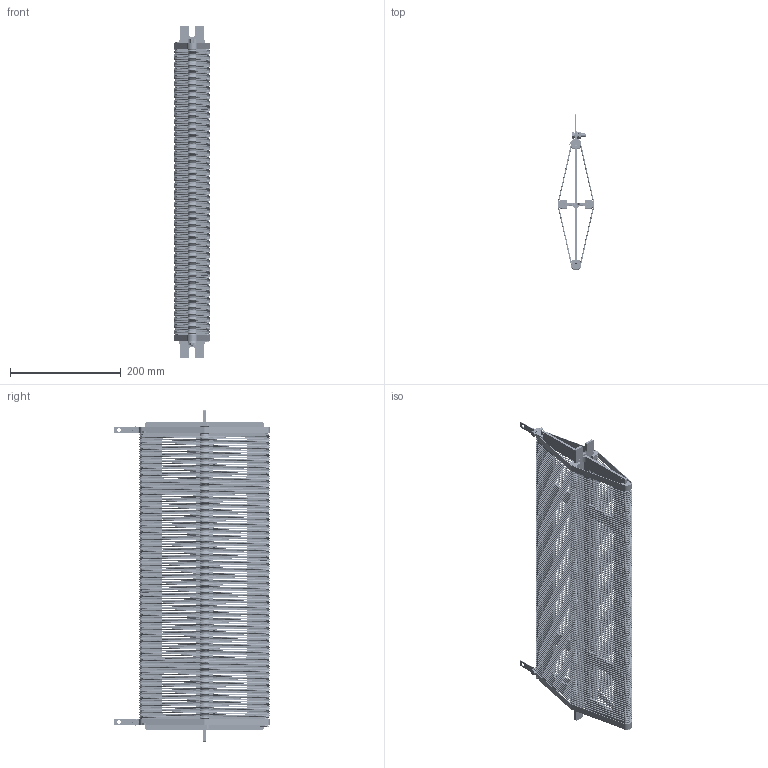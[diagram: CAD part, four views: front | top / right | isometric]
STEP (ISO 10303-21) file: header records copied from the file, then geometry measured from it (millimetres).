
FILE_DESCRIPTION(/* description */ (''),/* implementation_level */ '2;1');
FILE_NAME(/* name */ 'C:\_Vault\Dati\CATALOGO\RDP\RDP Catalogo\RDP 5000.stp',/* time_stamp */ '2023-05-16T15:30:39+02:00',/* author */ ('claudio'),/* organization */ ('Fairfild Srl'),/* preprocessor_version */ 'ST-DEVELOPER v18.1',/* originating_system */ 'Autodesk Inventor 2022',/* authorisation */ '');
FILE_SCHEMA (('AUTOMOTIVE_DESIGN { 1 0 10303 214 3 1 1 }'));
Products named in the file (13): RDP 5000; 76DP751600AA112150; 76DP751600AA112150_1; 76DP751600AA112150_2; RDP 5000_1; Mica RDP 5000 L.550; 14MS22G01400000001; Parte2-03; Avvolgimento RDP 5000; 28M006000A28800000; 600006000A25100032; 600006000A29200030; 97M006020A23900070
Assembly tree (58 placements, depth 3):
  RDP 5000
    76DP751600AA112150
      76DP751600AA112150_1
      76DP751600AA112150_2
      RDP 5000_1  x2
    Mica RDP 5000 L.550  x4
    14MS22G01400000001  x36
    Parte2-03  x2
    Avvolgimento RDP 5000
    28M006000A28800000  x2
    600006000A25100032  x2
    600006000A29200030  x4
    97M006020A23900070  x2
Bounding box: 66 x 281 x 600 mm (x, y, z)
Volume: 954005.5 mm3; surface area: 895235.8 mm2
Topology: 62 solids, 62 shells, 5481 faces, 16519 edges, 11166 vertices
Faces by surface type: torus 1996, plane 1346, cylinder 1089, cone 1050
Full cylindrical faces by diameter (mm): 2 x953, 4.917 x2, 6 x2, 6.4 x4, 6.5 x6, 8.88 x2, 12.5 x4
Entity records: 80945 total; most frequent: DIRECTION 15994, CARTESIAN_POINT 13985, ORIENTED_EDGE 13148, AXIS2_PLACEMENT_3D 7305, EDGE_CURVE 6574, CIRCLE 5002, VERTEX_POINT 4380, EDGE_LOOP 2252
